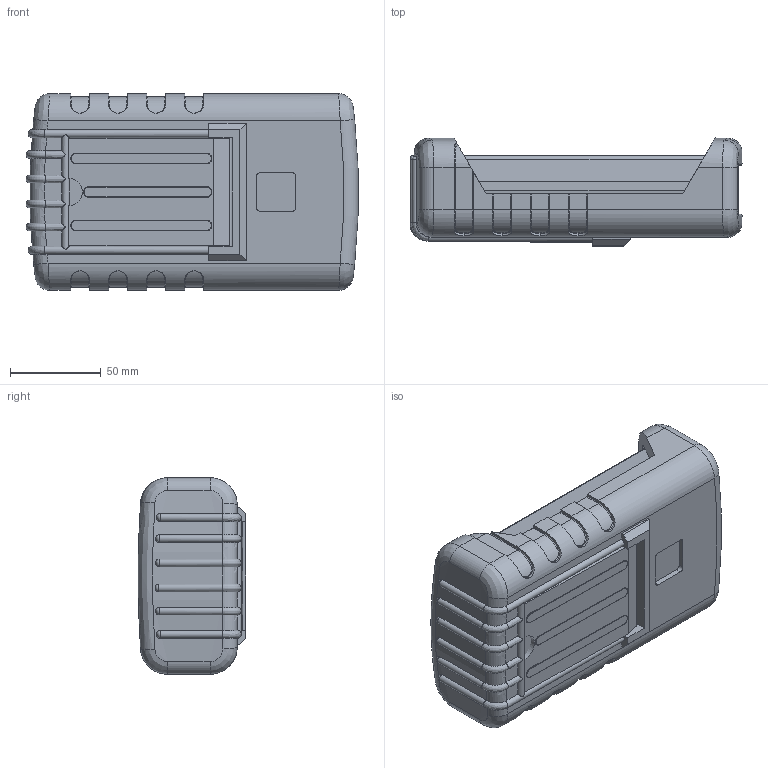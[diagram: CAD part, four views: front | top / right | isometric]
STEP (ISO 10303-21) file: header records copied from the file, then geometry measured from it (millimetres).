
FILE_DESCRIPTION (( 'STEP AP214' ), '1' );
FILE_NAME ('90-43-9V-E-F-BO.STEP', '2020-10-04T16:59:10', ( 'Rudy' ), ( '' ), 'SwSTEP 2.0', 'SolidWorks 2014', '' );
FILE_SCHEMA (( 'AUTOMOTIVE_DESIGN' ));
Length unit declared in the file: millimetre
Products named in the file (9): 90 RBE Boot; RE 90 stand; 90 PCB 9V; 90-Top Flush; 90 expander; 9V door; 90-9V; 90-43-9V-E-F-BO
Assembly tree (8 placements, depth 3):
  90-43-9V-E-F-BO
    90-9V
    9V door
    90 expander
    90-Top Flush
    90 PCB 9V
    90 RBE Boot
      90 RBE Boot
      RE 90 stand
Bounding box: 183.26 x 59.56 x 108.46 mm (x, y, z)
Volume: 419712 mm3; surface area: 216020.4 mm2
Topology: 7 solids, 7 shells, 1033 faces, 2749 edges, 1762 vertices
Faces by surface type: plane 569, cylinder 278, bspline 76, cone 52, torus 45, sphere 13
Entity records: 38887 total; most frequent: CARTESIAN_POINT 13352, ORIENTED_EDGE 5458, DIRECTION 5025, EDGE_CURVE 2729, VERTEX_POINT 1754, LINE 1693, VECTOR 1693, AXIS2_PLACEMENT_3D 1666
